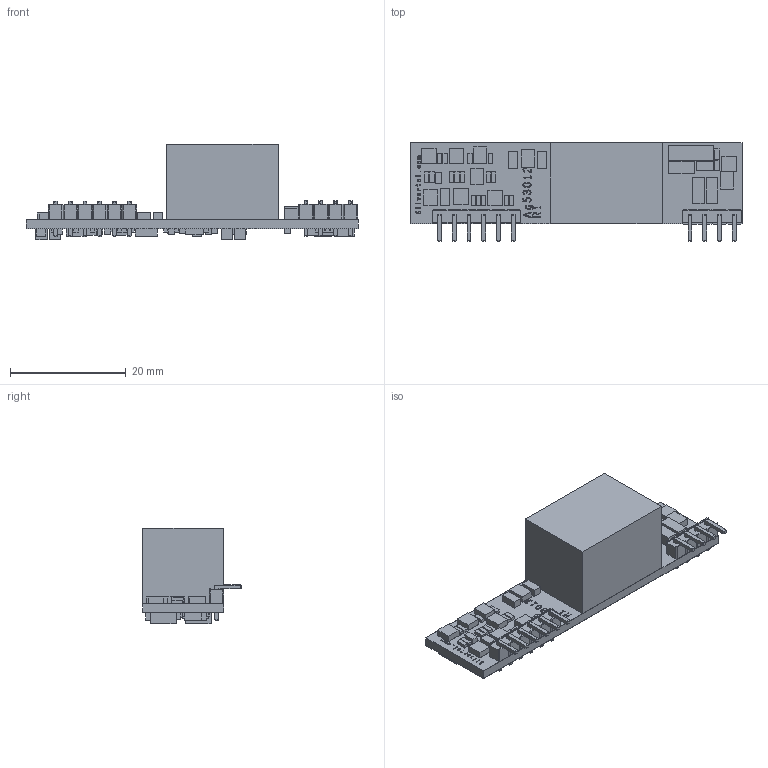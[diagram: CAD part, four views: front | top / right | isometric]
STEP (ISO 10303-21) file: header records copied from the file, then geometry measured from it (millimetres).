
FILE_DESCRIPTION(('FreeCAD Model'),'2;1');
FILE_NAME('Open CASCADE Shape Model','2026-04-21T10:05:53',(''),(''), 'Open CASCADE STEP processor 7.8','FreeCAD','Unknown');
FILE_SCHEMA(('AUTOMOTIVE_DESIGN { 1 0 10303 214 1 1 1 1 }'));
Products named in the file (1): Ag53000_simplified
Bounding box: 57.28 x 17.03 x 16.55 mm (x, y, z)
Volume: 1815.7 mm3; surface area: 7842.2 mm2
Topology: 93 solids, 101 shells, 3171 faces, 8771 edges, 5757 vertices
Faces by surface type: extrusion 2641, revolution 530
Entity records: 107485 total; most frequent: CARTESIAN_POINT 18278, ORIENTED_EDGE 17482, DIRECTION 16139, VECTOR 13487, LINE 10846, EDGE_CURVE 8747, VERTEX_POINT 5757, FACE_BOUND 3765
